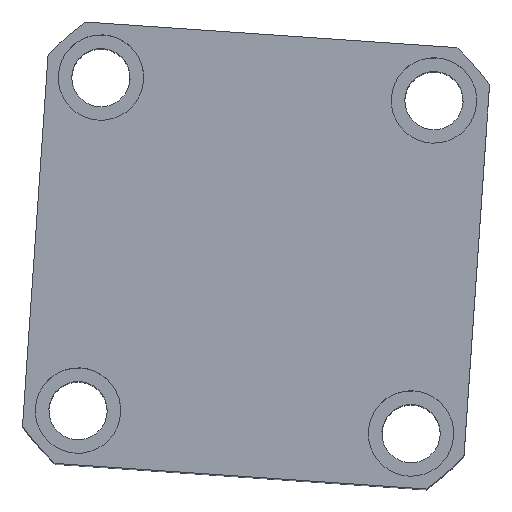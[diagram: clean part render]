
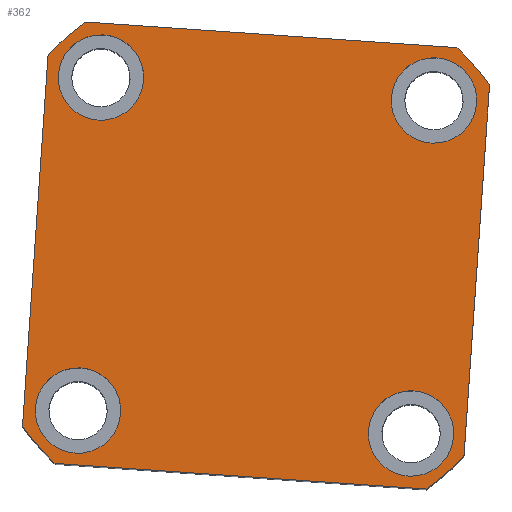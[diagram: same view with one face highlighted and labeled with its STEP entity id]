
A CAD part, top view. The second image highlights one B-rep face of the part: STEP entity #362.
In plain terms, the highlighted planar face has unit normal (0, 0, 1) as drawn and (0, 0, -1) by its records, which use the part's own axes.
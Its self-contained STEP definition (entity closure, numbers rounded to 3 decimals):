
#12 = CARTESIAN_POINT ( 'NONE',  ( 32., 43., 0. ) ) ;
#86 = VECTOR ( 'NONE', #3883, 1000. ) ;
#240 = ORIENTED_EDGE ( 'NONE', *, *, #527, .F. ) ;
#362 = ADVANCED_FACE ( 'NONE', ( #8731, #5964, #11854, #2844, #2483 ), #13431, .F. ) ;
#516 = DIRECTION ( 'NONE',  ( -1., 0., 0. ) ) ;
#527 = EDGE_CURVE ( 'NONE', #11757, #12243, #4512, .T. ) ;
#774 = VERTEX_POINT ( 'NONE', #6379 ) ;
#807 = DIRECTION ( 'NONE',  ( -1., 0., 0. ) ) ;
#850 = VECTOR ( 'NONE', #14454, 1000. ) ;
#858 = VERTEX_POINT ( 'NONE', #5266 ) ;
#941 = CARTESIAN_POINT ( 'NONE',  ( 54., -43., 0. ) ) ;
#1011 = CARTESIAN_POINT ( 'NONE',  ( -43., 43., 0. ) ) ;
#1057 = VERTEX_POINT ( 'NONE', #12 ) ;
#1140 = VERTEX_POINT ( 'NONE', #6824 ) ;
#1202 = CARTESIAN_POINT ( 'NONE',  ( -54., 43., 0. ) ) ;
#1207 = LINE ( 'NONE', #3802, #850 ) ;
#1584 = CARTESIAN_POINT ( 'NONE',  ( 0., 0., 0. ) ) ;
#1633 = CARTESIAN_POINT ( 'NONE',  ( 47.971, -57., 0. ) ) ;
#1979 = CARTESIAN_POINT ( 'NONE',  ( 57., -47.971, 0. ) ) ;
#2017 = VERTEX_POINT ( 'NONE', #3239 ) ;
#2026 = VERTEX_POINT ( 'NONE', #3021 ) ;
#2069 = CARTESIAN_POINT ( 'NONE',  ( -54., -43., 0. ) ) ;
#2179 = VERTEX_POINT ( 'NONE', #1633 ) ;
#2214 = DIRECTION ( 'NONE',  ( -1., 0., 0. ) ) ;
#2273 = AXIS2_PLACEMENT_3D ( 'NONE', #13646, #13372, #13319 ) ;
#2313 = CIRCLE ( 'NONE', #7368, 74.5 ) ;
#2328 = LINE ( 'NONE', #11986, #11321 ) ;
#2366 = ORIENTED_EDGE ( 'NONE', *, *, #9850, .F. ) ;
#2483 = FACE_OUTER_BOUND ( 'NONE', #3076, .T. ) ;
#2764 = DIRECTION ( 'NONE',  ( 1., 0., 0. ) ) ;
#2844 = FACE_BOUND ( 'NONE', #5112, .T. ) ;
#2892 = EDGE_CURVE ( 'NONE', #5554, #8267, #8137, .T. ) ;
#2945 = EDGE_CURVE ( 'NONE', #1057, #10012, #14038, .T. ) ;
#2955 = EDGE_CURVE ( 'NONE', #2017, #3042, #8496, .T. ) ;
#2966 = CARTESIAN_POINT ( 'NONE',  ( 43., 43., 0. ) ) ;
#3012 = CIRCLE ( 'NONE', #8663, 74.5 ) ;
#3021 = CARTESIAN_POINT ( 'NONE',  ( -47.971, -57., 0. ) ) ;
#3042 = VERTEX_POINT ( 'NONE', #941 ) ;
#3076 = EDGE_LOOP ( 'NONE', ( #3189, #3376, #3739, #9802, #10000, #12379, #12753, #9608 ) ) ;
#3094 = EDGE_LOOP ( 'NONE', ( #2366, #3095 ) ) ;
#3095 = ORIENTED_EDGE ( 'NONE', *, *, #10816, .F. ) ;
#3189 = ORIENTED_EDGE ( 'NONE', *, *, #12022, .F. ) ;
#3230 = AXIS2_PLACEMENT_3D ( 'NONE', #9935, #9878, #9824 ) ;
#3238 = CARTESIAN_POINT ( 'NONE',  ( 0., 0., 0. ) ) ;
#3239 = CARTESIAN_POINT ( 'NONE',  ( 32., -43., 0. ) ) ;
#3263 = DIRECTION ( 'NONE',  ( -1., 0., 0. ) ) ;
#3376 = ORIENTED_EDGE ( 'NONE', *, *, #10731, .F. ) ;
#3421 = CARTESIAN_POINT ( 'NONE',  ( 54., 43., 0. ) ) ;
#3739 = ORIENTED_EDGE ( 'NONE', *, *, #13953, .F. ) ;
#3795 = AXIS2_PLACEMENT_3D ( 'NONE', #5370, #4448, #4402 ) ;
#3802 = CARTESIAN_POINT ( 'NONE',  ( 57., 57., 0. ) ) ;
#3883 = DIRECTION ( 'NONE',  ( 1., 0., 0. ) ) ;
#3891 = EDGE_CURVE ( 'NONE', #8267, #2026, #4226, .T. ) ;
#3988 = CARTESIAN_POINT ( 'NONE',  ( 0., 0., 0. ) ) ;
#4157 = DIRECTION ( 'NONE',  ( -1., 0., 0. ) ) ;
#4190 = DIRECTION ( 'NONE',  ( 0., 0., -1. ) ) ;
#4226 = CIRCLE ( 'NONE', #3230, 74.5 ) ;
#4250 = CARTESIAN_POINT ( 'NONE',  ( 43., -43., 0. ) ) ;
#4402 = DIRECTION ( 'NONE',  ( -1., 0., 0. ) ) ;
#4426 = DIRECTION ( 'NONE',  ( 1., 0., 0. ) ) ;
#4448 = DIRECTION ( 'NONE',  ( 0., 0., -1. ) ) ;
#4512 = CIRCLE ( 'NONE', #8554, 11. ) ;
#4579 = EDGE_CURVE ( 'NONE', #1140, #5554, #13235, .T. ) ;
#4927 = VERTEX_POINT ( 'NONE', #2069 ) ;
#5008 = VECTOR ( 'NONE', #7668, 1000. ) ;
#5112 = EDGE_LOOP ( 'NONE', ( #15240, #240 ) ) ;
#5175 = DIRECTION ( 'NONE',  ( 1., 0., 0. ) ) ;
#5266 = CARTESIAN_POINT ( 'NONE',  ( -32., -43., 0. ) ) ;
#5370 = CARTESIAN_POINT ( 'NONE',  ( 43., 43., 0. ) ) ;
#5536 = AXIS2_PLACEMENT_3D ( 'NONE', #1011, #9237, #2214 ) ;
#5554 = VERTEX_POINT ( 'NONE', #15284 ) ;
#5813 = CARTESIAN_POINT ( 'NONE',  ( 43., -43., 0. ) ) ;
#5964 = FACE_BOUND ( 'NONE', #15241, .T. ) ;
#6004 = EDGE_CURVE ( 'NONE', #12243, #11757, #8623, .T. ) ;
#6379 = CARTESIAN_POINT ( 'NONE',  ( 47.971, 57., 0. ) ) ;
#6380 = EDGE_LOOP ( 'NONE', ( #12839, #14134 ) ) ;
#6824 = CARTESIAN_POINT ( 'NONE',  ( -47.971, 57., 0. ) ) ;
#6958 = AXIS2_PLACEMENT_3D ( 'NONE', #4250, #4190, #3263 ) ;
#6999 = DIRECTION ( 'NONE',  ( -1., 0., 0. ) ) ;
#7204 = EDGE_CURVE ( 'NONE', #10012, #1057, #11737, .T. ) ;
#7321 = CARTESIAN_POINT ( 'NONE',  ( -57., -57., 0. ) ) ;
#7368 = AXIS2_PLACEMENT_3D ( 'NONE', #3238, #11456, #4426 ) ;
#7547 = DIRECTION ( 'NONE',  ( 0., 0., -1. ) ) ;
#7570 = AXIS2_PLACEMENT_3D ( 'NONE', #5813, #14049, #6999 ) ;
#7668 = DIRECTION ( 'NONE',  ( 0., -1., 0. ) ) ;
#7846 = DIRECTION ( 'NONE',  ( 0., 0., -1. ) ) ;
#8137 = LINE ( 'NONE', #8844, #5008 ) ;
#8267 = VERTEX_POINT ( 'NONE', #10322 ) ;
#8496 = CIRCLE ( 'NONE', #6958, 11. ) ;
#8554 = AXIS2_PLACEMENT_3D ( 'NONE', #9835, #9783, #9726 ) ;
#8582 = CARTESIAN_POINT ( 'NONE',  ( 57., 47.971, 0. ) ) ;
#8623 = CIRCLE ( 'NONE', #5536, 11. ) ;
#8663 = AXIS2_PLACEMENT_3D ( 'NONE', #3988, #12200, #5175 ) ;
#8675 = VERTEX_POINT ( 'NONE', #1979 ) ;
#8680 = CARTESIAN_POINT ( 'NONE',  ( -32., 43., 0. ) ) ;
#8731 = FACE_BOUND ( 'NONE', #3094, .T. ) ;
#8844 = CARTESIAN_POINT ( 'NONE',  ( -57., 57., 0. ) ) ;
#9237 = DIRECTION ( 'NONE',  ( 0., 0., -1. ) ) ;
#9340 = ORIENTED_EDGE ( 'NONE', *, *, #2955, .F. ) ;
#9608 = ORIENTED_EDGE ( 'NONE', *, *, #10212, .F. ) ;
#9643 = AXIS2_PLACEMENT_3D ( 'NONE', #2966, #11183, #4157 ) ;
#9726 = DIRECTION ( 'NONE',  ( -1., 0., 0. ) ) ;
#9783 = DIRECTION ( 'NONE',  ( 0., 0., -1. ) ) ;
#9802 = ORIENTED_EDGE ( 'NONE', *, *, #13892, .F. ) ;
#9805 = DIRECTION ( 'NONE',  ( 0., 0., 1. ) ) ;
#9824 = DIRECTION ( 'NONE',  ( 1., 0., 0. ) ) ;
#9835 = CARTESIAN_POINT ( 'NONE',  ( -43., 43., 0. ) ) ;
#9850 = EDGE_CURVE ( 'NONE', #4927, #858, #10417, .T. ) ;
#9878 = DIRECTION ( 'NONE',  ( 0., 0., 1. ) ) ;
#9935 = CARTESIAN_POINT ( 'NONE',  ( 0., 0., 0. ) ) ;
#10000 = ORIENTED_EDGE ( 'NONE', *, *, #3891, .F. ) ;
#10012 = VERTEX_POINT ( 'NONE', #3421 ) ;
#10146 = AXIS2_PLACEMENT_3D ( 'NONE', #14914, #7846, #807 ) ;
#10212 = EDGE_CURVE ( 'NONE', #774, #1140, #2328, .T. ) ;
#10322 = CARTESIAN_POINT ( 'NONE',  ( -57., -47.971, 0. ) ) ;
#10417 = CIRCLE ( 'NONE', #10146, 11. ) ;
#10731 = EDGE_CURVE ( 'NONE', #8675, #10737, #1207, .T. ) ;
#10737 = VERTEX_POINT ( 'NONE', #8582 ) ;
#10816 = EDGE_CURVE ( 'NONE', #858, #4927, #12972, .T. ) ;
#11102 = AXIS2_PLACEMENT_3D ( 'NONE', #14612, #7547, #516 ) ;
#11183 = DIRECTION ( 'NONE',  ( 0., 0., -1. ) ) ;
#11321 = VECTOR ( 'NONE', #12241, 1000. ) ;
#11456 = DIRECTION ( 'NONE',  ( 0., 0., 1. ) ) ;
#11737 = CIRCLE ( 'NONE', #9643, 11. ) ;
#11757 = VERTEX_POINT ( 'NONE', #8680 ) ;
#11854 = FACE_BOUND ( 'NONE', #6380, .T. ) ;
#11986 = CARTESIAN_POINT ( 'NONE',  ( -57., 57., 0. ) ) ;
#12022 = EDGE_CURVE ( 'NONE', #10737, #774, #2313, .T. ) ;
#12094 = ORIENTED_EDGE ( 'NONE', *, *, #14679, .F. ) ;
#12200 = DIRECTION ( 'NONE',  ( 0., 0., 1. ) ) ;
#12241 = DIRECTION ( 'NONE',  ( -1., 0., 0. ) ) ;
#12243 = VERTEX_POINT ( 'NONE', #1202 ) ;
#12379 = ORIENTED_EDGE ( 'NONE', *, *, #2892, .F. ) ;
#12391 = LINE ( 'NONE', #7321, #86 ) ;
#12753 = ORIENTED_EDGE ( 'NONE', *, *, #4579, .F. ) ;
#12839 = ORIENTED_EDGE ( 'NONE', *, *, #2945, .F. ) ;
#12972 = CIRCLE ( 'NONE', #11102, 11. ) ;
#13139 = CIRCLE ( 'NONE', #7570, 11. ) ;
#13158 = AXIS2_PLACEMENT_3D ( 'NONE', #1584, #9805, #2764 ) ;
#13235 = CIRCLE ( 'NONE', #13158, 74.5 ) ;
#13319 = DIRECTION ( 'NONE',  ( 1., 0., 0. ) ) ;
#13372 = DIRECTION ( 'NONE',  ( 0., 0., 1. ) ) ;
#13431 = PLANE ( 'NONE',  #2273 ) ;
#13646 = CARTESIAN_POINT ( 'NONE',  ( 0., 0., 0. ) ) ;
#13892 = EDGE_CURVE ( 'NONE', #2026, #2179, #12391, .T. ) ;
#13953 = EDGE_CURVE ( 'NONE', #2179, #8675, #3012, .T. ) ;
#14038 = CIRCLE ( 'NONE', #3795, 11. ) ;
#14049 = DIRECTION ( 'NONE',  ( 0., 0., -1. ) ) ;
#14134 = ORIENTED_EDGE ( 'NONE', *, *, #7204, .F. ) ;
#14454 = DIRECTION ( 'NONE',  ( 0., 1., 0. ) ) ;
#14612 = CARTESIAN_POINT ( 'NONE',  ( -43., -43., 0. ) ) ;
#14679 = EDGE_CURVE ( 'NONE', #3042, #2017, #13139, .T. ) ;
#14914 = CARTESIAN_POINT ( 'NONE',  ( -43., -43., 0. ) ) ;
#15240 = ORIENTED_EDGE ( 'NONE', *, *, #6004, .F. ) ;
#15241 = EDGE_LOOP ( 'NONE', ( #9340, #12094 ) ) ;
#15284 = CARTESIAN_POINT ( 'NONE',  ( -57., 47.971, 0. ) ) ;
